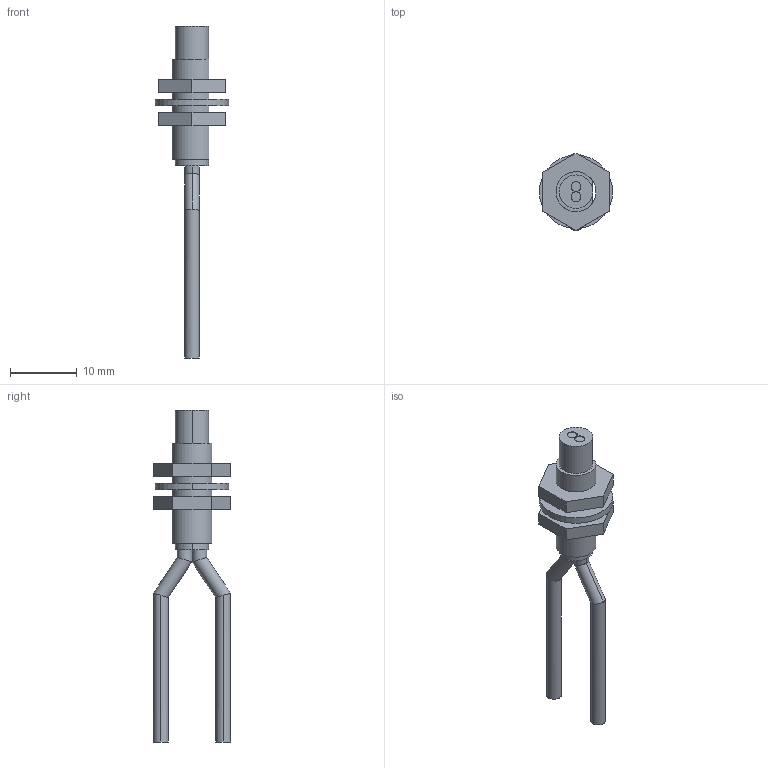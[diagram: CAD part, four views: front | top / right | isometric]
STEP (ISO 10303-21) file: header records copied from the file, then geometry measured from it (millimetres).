
FILE_DESCRIPTION (( 'STEP AP203' ), '1' );
FILE_NAME ('FD-H13-FM2.STEP', '2005-11-09T08:02:49', ( '' ), ( '' ), 'SwSTEP 2.0', 'SolidWorks 2004073', '' );
FILE_SCHEMA (( 'CONFIG_CONTROL_DESIGN' ));
Length unit declared in the file: millimetre
Products named in the file (1): FD-H13-FM2
Bounding box: 11 x 11.55 x 49.81 mm (x, y, z)
Volume: 1054.5 mm3; surface area: 1477.4 mm2
Topology: 4 solids, 4 shells, 56 faces, 122 edges, 80 vertices
Faces by surface type: cylinder 29, plane 27
Entity records: 1619 total; most frequent: CARTESIAN_POINT 295, DIRECTION 266, ORIENTED_EDGE 244, EDGE_CURVE 122, AXIS2_PLACEMENT_3D 99, VERTEX_POINT 80, EDGE_LOOP 68, VECTOR 68
